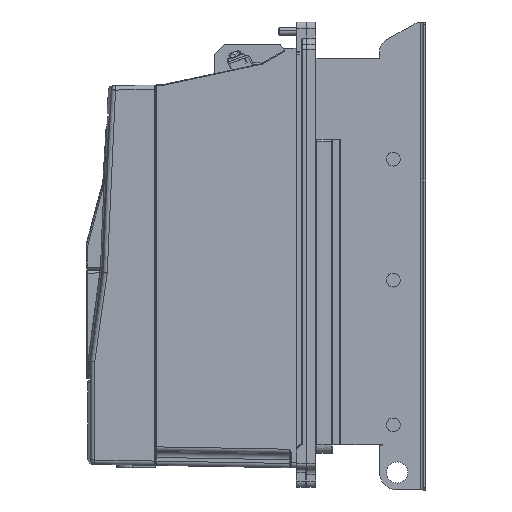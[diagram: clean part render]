
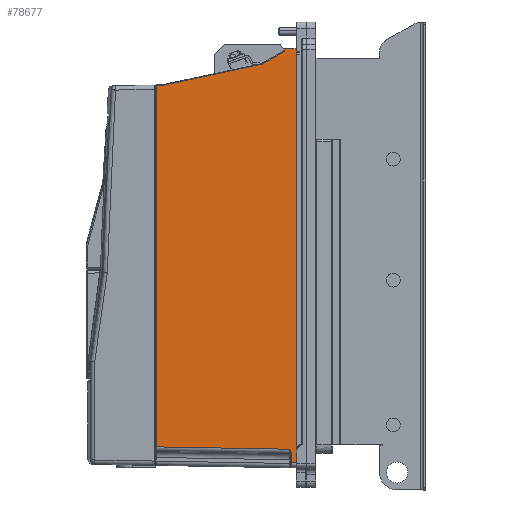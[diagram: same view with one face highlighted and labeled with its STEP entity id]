
A CAD part, left-side view. The second image highlights one B-rep face of the part: STEP entity #78677.
In plain terms, the highlighted planar face has unit normal (-1, 0.018, 0).
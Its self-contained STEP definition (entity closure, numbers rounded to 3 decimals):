
#894 = CARTESIAN_POINT ( 'NONE',  ( -110.649, -44.491, 163.917 ) ) ;
#1134 = ORIENTED_EDGE ( 'NONE', *, *, #25655, .T. ) ;
#1568 = VERTEX_POINT ( 'NONE', #58758 ) ;
#1706 = VERTEX_POINT ( 'NONE', #66956 ) ;
#1748 = CARTESIAN_POINT ( 'NONE',  ( -110.734, -49.246, -155.402 ) ) ;
#5985 = ORIENTED_EDGE ( 'NONE', *, *, #63923, .F. ) ;
#6058 = LINE ( 'NONE', #36063, #10809 ) ;
#6549 = ORIENTED_EDGE ( 'NONE', *, *, #35718, .T. ) ;
#7126 = VECTOR ( 'NONE', #95106, 1000. ) ;
#10195 = CARTESIAN_POINT ( 'NONE',  ( -108.8, 58.5, 170. ) ) ;
#10613 = VERTEX_POINT ( 'NONE', #17567 ) ;
#10809 = VECTOR ( 'NONE', #65580, 1000. ) ;
#12245 = CARTESIAN_POINT ( 'NONE',  ( -110.326, -26.545, 153.611 ) ) ;
#12486 = CARTESIAN_POINT ( 'NONE',  ( -108.693, 64.434, -163.895 ) ) ;
#13736 = CARTESIAN_POINT ( 'NONE',  ( -110.747, -49.991, -157.617 ) ) ;
#14456 = VERTEX_POINT ( 'NONE', #79471 ) ;
#15397 = CARTESIAN_POINT ( 'NONE',  ( -110.654, -44.808, 164.1 ) ) ;
#16075 = EDGE_CURVE ( 'NONE', #32722, #59680, #83994, .T. ) ;
#17567 = CARTESIAN_POINT ( 'NONE',  ( -110.332, -26.837, 153.723 ) ) ;
#17764 = VECTOR ( 'NONE', #50235, 1000. ) ;
#17912 = ORIENTED_EDGE ( 'NONE', *, *, #16075, .T. ) ;
#19408 = DIRECTION ( 'NONE',  ( 0., 0., -1. ) ) ;
#19590 = VERTEX_POINT ( 'NONE', #12245 ) ;
#19908 = ORIENTED_EDGE ( 'NONE', *, *, #93131, .T. ) ;
#20241 = EDGE_CURVE ( 'NONE', #36443, #14456, #52060, .T. ) ;
#21479 = CARTESIAN_POINT ( 'NONE',  ( -108.889, 53.518, 136.593 ) ) ;
#22106 = LINE ( 'NONE', #29371, #84516 ) ;
#22314 = VERTEX_POINT ( 'NONE', #38628 ) ;
#22617 = VERTEX_POINT ( 'NONE', #79519 ) ;
#23022 = CARTESIAN_POINT ( 'NONE',  ( -110.658, -44.991, 170. ) ) ;
#23919 = LINE ( 'NONE', #83459, #92983 ) ;
#24799 = VERTEX_POINT ( 'NONE', #24966 ) ;
#24966 = CARTESIAN_POINT ( 'NONE',  ( -108.891, 53.455, 136.607 ) ) ;
#25655 = EDGE_CURVE ( 'NONE', #1568, #32722, #22106, .T. ) ;
#26085 = ORIENTED_EDGE ( 'NONE', *, *, #70108, .F. ) ;
#27150 = ORIENTED_EDGE ( 'NONE', *, *, #95076, .T. ) ;
#29371 = CARTESIAN_POINT ( 'NONE',  ( -108.8, 58.5, 166. ) ) ;
#29855 = DIRECTION ( 'NONE',  ( 0.018, 1., 0. ) ) ;
#32281 = B_SPLINE_CURVE_WITH_KNOTS ( 'NONE', 3,
 ( #86600, #1748, #35297, #65767, #51270, #88030, #36715, #49815 ),
 .UNSPECIFIED., .F., .F.,
 ( 4, 2, 2, 4 ),
 ( 0., 0.001, 0.002, 0.003 ),
 .UNSPECIFIED. ) ;
#32504 = VECTOR ( 'NONE', #44784, 1000. ) ;
#32722 = VERTEX_POINT ( 'NONE', #52100 ) ;
#33795 = LINE ( 'NONE', #12486, #17764 ) ;
#34691 = LINE ( 'NONE', #48724, #90148 ) ;
#34750 = ORIENTED_EDGE ( 'NONE', *, *, #20241, .T. ) ;
#35297 = CARTESIAN_POINT ( 'NONE',  ( -110.738, -49.482, -155.814 ) ) ;
#35560 = LINE ( 'NONE', #80055, #7126 ) ;
#35718 = EDGE_CURVE ( 'NONE', #47526, #10613, #49331, .T. ) ;
#36063 = CARTESIAN_POINT ( 'NONE',  ( -108.926, 51.493, 137.024 ) ) ;
#36443 = VERTEX_POINT ( 'NONE', #86854 ) ;
#36635 = ORIENTED_EDGE ( 'NONE', *, *, #51988, .T. ) ;
#36715 = CARTESIAN_POINT ( 'NONE',  ( -110.747, -49.991, -157.379 ) ) ;
#37480 = VERTEX_POINT ( 'NONE', #13736 ) ;
#37999 = CARTESIAN_POINT ( 'NONE',  ( -110.649, -44.491, 163.917 ) ) ;
#38628 = CARTESIAN_POINT ( 'NONE',  ( -110.747, -49.991, -165.929 ) ) ;
#40242 = LINE ( 'NONE', #77512, #40763 ) ;
#40582 = CARTESIAN_POINT ( 'NONE',  ( -110.326, -26.545, 153.611 ) ) ;
#40677 = VECTOR ( 'NONE', #54011, 1000. ) ;
#40763 = VECTOR ( 'NONE', #19408, 1000. ) ;
#41983 = CARTESIAN_POINT ( 'NONE',  ( -110.332, -26.837, 153.723 ) ) ;
#42047 = CARTESIAN_POINT ( 'NONE',  ( -110.33, -26.763, 153.681 ) ) ;
#42827 =( BOUNDED_CURVE ( )  B_SPLINE_CURVE ( 3, ( #894, #15397, #59478, #80256 ),
 .UNSPECIFIED., .F., .T. ) 
 B_SPLINE_CURVE_WITH_KNOTS ( ( 4, 4 ),
 ( 4.712, 5.76 ),
 .UNSPECIFIED. ) 
 CURVE ( )  GEOMETRIC_REPRESENTATION_ITEM ( )  RATIONAL_B_SPLINE_CURVE ( ( 1., 0.911, 0.911, 1. ) ) 
 REPRESENTATION_ITEM ( '' )  );
#44242 = CARTESIAN_POINT ( 'NONE',  ( -108.891, 53.455, 136.607 ) ) ;
#44784 = DIRECTION ( 'NONE',  ( 0.018, 1., -0.017 ) ) ;
#45699 = VECTOR ( 'NONE', #71134, 1000. ) ;
#46663 = DIRECTION ( 'NONE',  ( 0., 0., -1. ) ) ;
#47526 = VERTEX_POINT ( 'NONE', #37999 ) ;
#47682 =( BOUNDED_CURVE ( )  B_SPLINE_CURVE ( 3, ( #40582, #70121, #78798, #41983 ),
 .UNSPECIFIED., .F., .F. ) 
 B_SPLINE_CURVE_WITH_KNOTS ( ( 4, 4 ),
 ( 4.398, 4.712 ),
 .UNSPECIFIED. ) 
 CURVE ( )  GEOMETRIC_REPRESENTATION_ITEM ( )  RATIONAL_B_SPLINE_CURVE ( ( 1., 0.992, 0.992, 1. ) ) 
 REPRESENTATION_ITEM ( '' )  );
#48510 = EDGE_CURVE ( 'NONE', #1706, #94647, #34691, .T. ) ;
#48724 = CARTESIAN_POINT ( 'NONE',  ( -108.699, 64.136, -153.017 ) ) ;
#49331 = LINE ( 'NONE', #42047, #45699 ) ;
#49815 = CARTESIAN_POINT ( 'NONE',  ( -110.747, -49.991, -157.617 ) ) ;
#50235 = DIRECTION ( 'NONE',  ( -0.018, -1., -0.018 ) ) ;
#50540 = CARTESIAN_POINT ( 'NONE',  ( -108.887, 53.646, 136.585 ) ) ;
#51270 = CARTESIAN_POINT ( 'NONE',  ( -110.745, -49.84, -156.69 ) ) ;
#51988 = EDGE_CURVE ( 'NONE', #14456, #1706, #35560, .T. ) ;
#52060 = LINE ( 'NONE', #58853, #32504 ) ;
#52100 = CARTESIAN_POINT ( 'NONE',  ( -110.658, -44.991, 166. ) ) ;
#52796 =( BOUNDED_CURVE ( )  B_SPLINE_CURVE ( 3, ( #50540, #72819, #21479, #44242 ),
 .UNSPECIFIED., .F., .T. ) 
 B_SPLINE_CURVE_WITH_KNOTS ( ( 4, 4 ),
 ( 1.588, 1.78 ),
 .UNSPECIFIED. ) 
 CURVE ( )  GEOMETRIC_REPRESENTATION_ITEM ( )  RATIONAL_B_SPLINE_CURVE ( ( 1., 0.997, 0.997, 1. ) ) 
 REPRESENTATION_ITEM ( '' )  );
#54011 = DIRECTION ( 'NONE',  ( 0., 0., -1. ) ) ;
#58758 = CARTESIAN_POINT ( 'NONE',  ( -110.819, -54., 166. ) ) ;
#58853 = CARTESIAN_POINT ( 'NONE',  ( -108.81, 57.916, 136.51 ) ) ;
#59478 = CARTESIAN_POINT ( 'NONE',  ( -110.658, -44.991, 164.418 ) ) ;
#59680 = VERTEX_POINT ( 'NONE', #75807 ) ;
#63923 = EDGE_CURVE ( 'NONE', #19590, #10613, #47682, .T. ) ;
#65341 = ORIENTED_EDGE ( 'NONE', *, *, #66066, .F. ) ;
#65580 = DIRECTION ( 'NONE',  ( 0.018, 0.978, -0.208 ) ) ;
#65767 = CARTESIAN_POINT ( 'NONE',  ( -110.743, -49.76, -156.465 ) ) ;
#66066 = EDGE_CURVE ( 'NONE', #1568, #22617, #40242, .T. ) ;
#66956 = CARTESIAN_POINT ( 'NONE',  ( -108.809, 58.009, -153.124 ) ) ;
#67884 = AXIS2_PLACEMENT_3D ( 'NONE', #10195, #76970, #91998 ) ;
#70108 = EDGE_CURVE ( 'NONE', #47526, #59680, #42827, .T. ) ;
#70121 = CARTESIAN_POINT ( 'NONE',  ( -110.328, -26.648, 153.633 ) ) ;
#71134 = DIRECTION ( 'NONE',  ( 0.016, 0.866, -0.5 ) ) ;
#71435 = ORIENTED_EDGE ( 'NONE', *, *, #93979, .T. ) ;
#72819 = CARTESIAN_POINT ( 'NONE',  ( -108.888, 53.582, 136.586 ) ) ;
#73151 = EDGE_LOOP ( 'NONE', ( #65341, #1134, #17912, #26085, #6549, #5985, #74440, #95459, #34750, #36635, #82500, #27150, #19908, #71435 ) ) ;
#73170 = EDGE_CURVE ( 'NONE', #19590, #24799, #6058, .T. ) ;
#74440 = ORIENTED_EDGE ( 'NONE', *, *, #73170, .T. ) ;
#75807 = CARTESIAN_POINT ( 'NONE',  ( -110.658, -44.991, 164.784 ) ) ;
#76970 = DIRECTION ( 'NONE',  ( 1., -0.018, 0. ) ) ;
#77309 = DIRECTION ( 'NONE',  ( -0.018, -1., -0.017 ) ) ;
#77512 = CARTESIAN_POINT ( 'NONE',  ( -110.819, -54., 170. ) ) ;
#77718 = EDGE_CURVE ( 'NONE', #36443, #24799, #52796, .T. ) ;
#77931 = PLANE ( 'NONE',  #67884 ) ;
#78677 = ADVANCED_FACE ( 'NONE', ( #85187 ), #77931, .F. ) ;
#78798 = CARTESIAN_POINT ( 'NONE',  ( -110.33, -26.746, 153.671 ) ) ;
#79471 = CARTESIAN_POINT ( 'NONE',  ( -108.809, 58.009, 136.509 ) ) ;
#79519 = CARTESIAN_POINT ( 'NONE',  ( -110.819, -54., -166.001 ) ) ;
#80055 = CARTESIAN_POINT ( 'NONE',  ( -108.809, 58.009, 170. ) ) ;
#80256 = CARTESIAN_POINT ( 'NONE',  ( -110.658, -44.991, 164.784 ) ) ;
#82500 = ORIENTED_EDGE ( 'NONE', *, *, #48510, .T. ) ;
#83459 = CARTESIAN_POINT ( 'NONE',  ( -110.747, -49.991, -165.921 ) ) ;
#83994 = LINE ( 'NONE', #23022, #40677 ) ;
#84516 = VECTOR ( 'NONE', #29855, 1000. ) ;
#85187 = FACE_OUTER_BOUND ( 'NONE', #73151, .T. ) ;
#86600 = CARTESIAN_POINT ( 'NONE',  ( -110.73, -49.009, -154.992 ) ) ;
#86854 = CARTESIAN_POINT ( 'NONE',  ( -108.887, 53.646, 136.585 ) ) ;
#88030 = CARTESIAN_POINT ( 'NONE',  ( -110.747, -49.956, -157.147 ) ) ;
#88223 = CARTESIAN_POINT ( 'NONE',  ( -110.73, -49.009, -154.992 ) ) ;
#90148 = VECTOR ( 'NONE', #77309, 1000. ) ;
#91998 = DIRECTION ( 'NONE',  ( 0.018, 1., 0. ) ) ;
#92983 = VECTOR ( 'NONE', #46663, 1000. ) ;
#93131 = EDGE_CURVE ( 'NONE', #37480, #22314, #23919, .T. ) ;
#93979 = EDGE_CURVE ( 'NONE', #22314, #22617, #33795, .T. ) ;
#94647 = VERTEX_POINT ( 'NONE', #88223 ) ;
#95076 = EDGE_CURVE ( 'NONE', #94647, #37480, #32281, .T. ) ;
#95106 = DIRECTION ( 'NONE',  ( 0., 0., -1. ) ) ;
#95459 = ORIENTED_EDGE ( 'NONE', *, *, #77718, .F. ) ;
